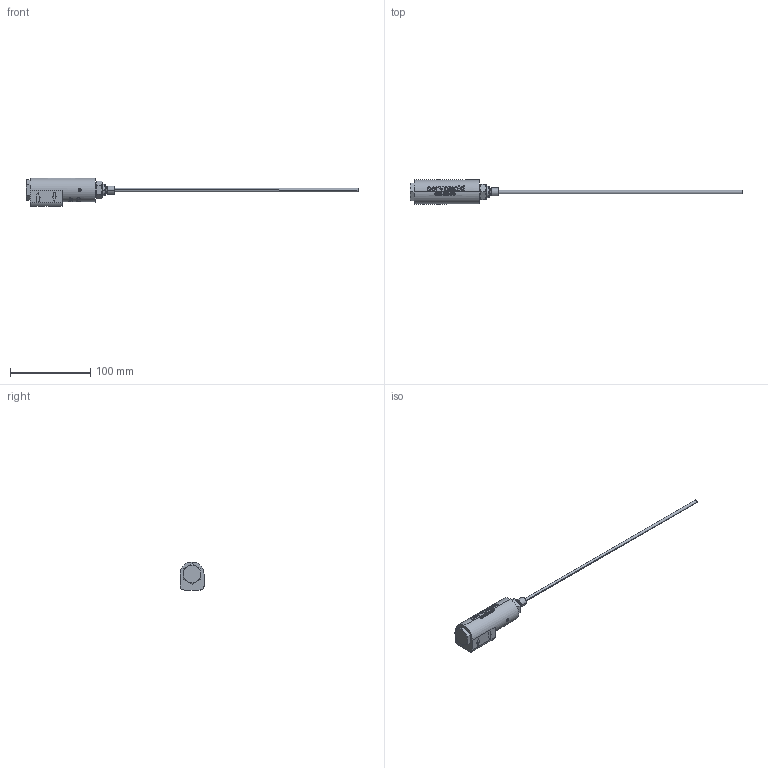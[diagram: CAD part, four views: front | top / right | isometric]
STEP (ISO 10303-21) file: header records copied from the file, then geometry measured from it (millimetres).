
FILE_DESCRIPTION((''),'2;1');
FILE_NAME('129631_ASM','2022-12-22T11:15:30',('SYSTEM'),(''),'CREO PARAMETRIC BY PTC INC, 2021284','CREO PARAMETRIC BY PTC INC, 2021284','');
FILE_SCHEMA(('AUTOMOTIVE_DESIGN { 1 0 10303 214 1 1 1 1 }'));
Products named in the file (2): 111897; 129631_ASM
Assembly tree (1 placements, depth 2):
  129631_ASM
    111897
Bounding box: 415 x 30 x 35 mm (x, y, z)
Volume: 59952.1 mm3; surface area: 36584.4 mm2
Topology: 8 solids, 8 shells, 1298 faces, 3367 edges, 2197 vertices
Faces by surface type: plane 546, bspline 300, cylinder 224, cone 116, torus 96, revolution 14, extrusion 2
Entity records: 99774 total; most frequent: CARTESIAN_POINT 53011, ORIENTED_EDGE 6730, DIRECTION 5156, PRESENTATION_STYLE_ASSIGNMENT 4373, STYLED_ITEM 3384, CURVE_STYLE 3381, EDGE_CURVE 3365, VERTEX_POINT 2197
